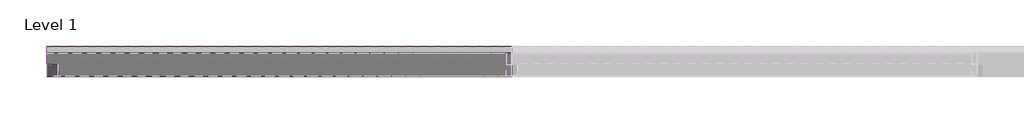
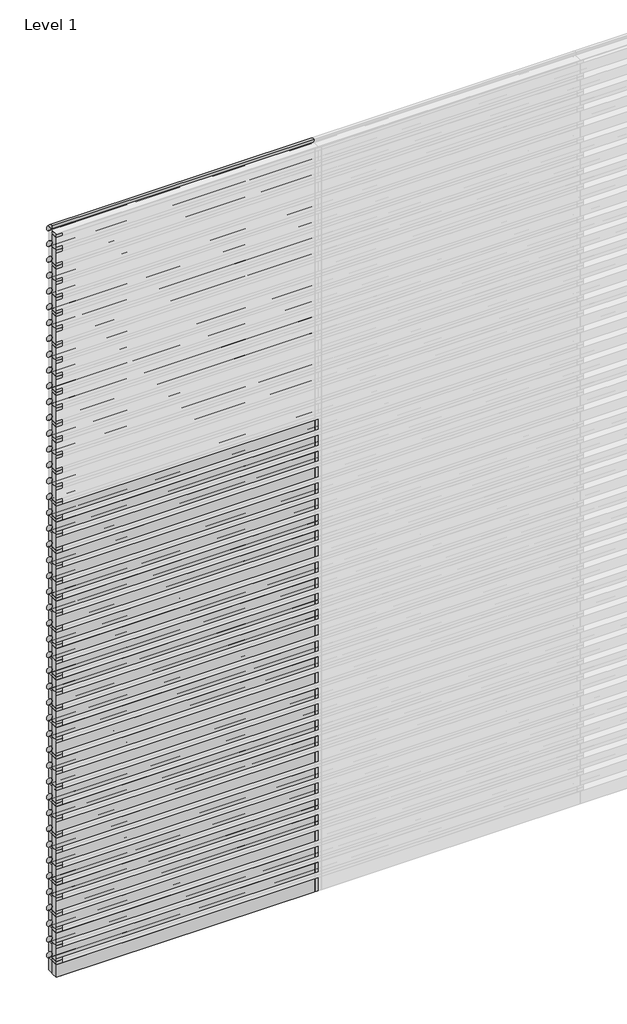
# One storey, part 1 of 5: 94 members, 30 plates.
"""IFC4 building model written with IfcOpenShell, lengths in millimetres."""

from ifc_helpers import new_model, si_unit, origin, place, context, project, spatial, transform, mapped, element, save
from components import rectangular_mullion_d23d7044, rectangular_mullion_b3c6ef04, empty_system_panel_empty_ea596e22, empty_system_panel_empty_a5cbaad0

model = new_model("IFC4")

# Units and contexts
model_context = context("Model", 3, world=origin())
ifc_project = project(units=[si_unit("LENGTHUNIT", "METRE", prefix="MILLI")], contexts=[model_context])

# Site, building, storey
site = spatial("IfcSite", under=ifc_project)
building = spatial("IfcBuilding", under=site)
storey = spatial("IfcBuildingStorey", under=building, Name="Level 1", Elevation=0.0)

# Members
placement = place(None, origin())
rectangular_mullion_shape = rectangular_mullion_d23d7044(model_context)
element("IfcMember", 1, ObjectType="Rectangular Mullion : RSen_21_CWM_blade - 100 D_gen_duco projects", at=placement, inside=storey, context=model_context, shape_type="MappedRepresentation", body=[
    mapped(rectangular_mullion_shape, transform((0.0, 3000.0, 127.5), x_axis=(0.0, 0.0, 1.0), y_axis=(0.0, 1.0, 0.0), z_axis=(-1.0, 0.0, 0.0))),
])
element("IfcMember", 2, ObjectType="Rectangular Mullion : RSen_21_CWM_blade - 100 D_gen_duco projects", at=placement, inside=storey, context=model_context, shape_type="MappedRepresentation", body=[
    mapped(rectangular_mullion_shape, transform((0.0, 3000.0, 255.0), x_axis=(0.0, 0.0, 1.0), y_axis=(0.0, 1.0, 0.0), z_axis=(-1.0, 0.0, 0.0))),
])
element("IfcMember", 3, ObjectType="Rectangular Mullion : RSen_21_CWM_blade - 100 D_gen_duco projects", at=placement, inside=storey, context=model_context, shape_type="MappedRepresentation", body=[
    mapped(rectangular_mullion_shape, transform((0.0, 3000.0, 382.5), x_axis=(0.0, 0.0, 1.0), y_axis=(0.0, 1.0, 0.0), z_axis=(-1.0, 0.0, 0.0))),
])
element("IfcMember", 4, ObjectType="Rectangular Mullion : RSen_21_CWM_blade - 100 D_gen_duco projects", at=placement, inside=storey, context=model_context, shape_type="MappedRepresentation", body=[
    mapped(rectangular_mullion_shape, transform((0.0, 3000.0, 510.0), x_axis=(0.0, 0.0, 1.0), y_axis=(0.0, 1.0, 0.0), z_axis=(-1.0, 0.0, 0.0))),
])
element("IfcMember", 5, ObjectType="Rectangular Mullion : RSen_21_CWM_blade - 100 D_gen_duco projects", at=placement, inside=storey, context=model_context, shape_type="MappedRepresentation", body=[
    mapped(rectangular_mullion_shape, transform((0.0, 3000.0, 637.5), x_axis=(0.0, 0.0, 1.0), y_axis=(0.0, 1.0, 0.0), z_axis=(-1.0, 0.0, 0.0))),
])
element("IfcMember", 6, ObjectType="Rectangular Mullion : RSen_21_CWM_blade - 100 D_gen_duco projects", at=placement, inside=storey, context=model_context, shape_type="MappedRepresentation", body=[
    mapped(rectangular_mullion_shape, transform((0.0, 3000.0, 765.0), x_axis=(0.0, 0.0, 1.0), y_axis=(0.0, 1.0, 0.0), z_axis=(-1.0, 0.0, 0.0))),
])
element("IfcMember", 7, ObjectType="Rectangular Mullion : RSen_21_CWM_blade - 100 D_gen_duco projects", at=placement, inside=storey, context=model_context, shape_type="MappedRepresentation", body=[
    mapped(rectangular_mullion_shape, transform((0.0, 3000.0, 892.5), x_axis=(0.0, 0.0, 1.0), y_axis=(0.0, 1.0, 0.0), z_axis=(-1.0, 0.0, 0.0))),
])
element("IfcMember", 8, ObjectType="Rectangular Mullion : RSen_21_CWM_blade - 100 D_gen_duco projects", at=placement, inside=storey, context=model_context, shape_type="MappedRepresentation", body=[
    mapped(rectangular_mullion_shape, transform((0.0, 3000.0, 1020.0), x_axis=(0.0, 0.0, 1.0), y_axis=(0.0, 1.0, 0.0), z_axis=(-1.0, 0.0, 0.0))),
])
element("IfcMember", 9, ObjectType="Rectangular Mullion : RSen_21_CWM_blade - 100 D_gen_duco projects", at=placement, inside=storey, context=model_context, shape_type="MappedRepresentation", body=[
    mapped(rectangular_mullion_shape, transform((0.0, 3000.0, 1147.5), x_axis=(0.0, 0.0, 1.0), y_axis=(0.0, 1.0, 0.0), z_axis=(-1.0, 0.0, 0.0))),
])
element("IfcMember", 10, ObjectType="Rectangular Mullion : RSen_21_CWM_blade - 100 D_gen_duco projects", at=placement, inside=storey, context=model_context, shape_type="MappedRepresentation", body=[
    mapped(rectangular_mullion_shape, transform((0.0, 3000.0, 1275.0), x_axis=(0.0, 0.0, 1.0), y_axis=(0.0, 1.0, 0.0), z_axis=(-1.0, 0.0, 0.0))),
])
element("IfcMember", 11, ObjectType="Rectangular Mullion : RSen_21_CWM_blade - 100 D_gen_duco projects", at=placement, inside=storey, context=model_context, shape_type="MappedRepresentation", body=[
    mapped(rectangular_mullion_shape, transform((0.0, 3000.0, 1402.5), x_axis=(0.0, 0.0, 1.0), y_axis=(0.0, 1.0, 0.0), z_axis=(-1.0, 0.0, 0.0))),
])
element("IfcMember", 12, ObjectType="Rectangular Mullion : RSen_21_CWM_blade - 100 D_gen_duco projects", at=placement, inside=storey, context=model_context, shape_type="MappedRepresentation", body=[
    mapped(rectangular_mullion_shape, transform((0.0, 3000.0, 1530.0), x_axis=(0.0, 0.0, 1.0), y_axis=(0.0, 1.0, 0.0), z_axis=(-1.0, 0.0, 0.0))),
])
element("IfcMember", 13, ObjectType="Rectangular Mullion : RSen_21_CWM_blade - 100 D_gen_duco projects", at=placement, inside=storey, context=model_context, shape_type="MappedRepresentation", body=[
    mapped(rectangular_mullion_shape, transform((0.0, 3000.0, 1657.5), x_axis=(0.0, 0.0, 1.0), y_axis=(0.0, 1.0, 0.0), z_axis=(-1.0, 0.0, 0.0))),
])
element("IfcMember", 14, ObjectType="Rectangular Mullion : RSen_21_CWM_blade - 100 D_gen_duco projects", at=placement, inside=storey, context=model_context, shape_type="MappedRepresentation", body=[
    mapped(rectangular_mullion_shape, transform((0.0, 3000.0, 1785.0), x_axis=(0.0, 0.0, 1.0), y_axis=(0.0, 1.0, 0.0), z_axis=(-1.0, 0.0, 0.0))),
])
element("IfcMember", 15, ObjectType="Rectangular Mullion : RSen_21_CWM_blade - 100 D_gen_duco projects", at=placement, inside=storey, context=model_context, shape_type="MappedRepresentation", body=[
    mapped(rectangular_mullion_shape, transform((0.0, 3000.0, 1912.5), x_axis=(0.0, 0.0, 1.0), y_axis=(0.0, 1.0, 0.0), z_axis=(-1.0, 0.0, 0.0))),
])
element("IfcMember", 16, ObjectType="Rectangular Mullion : RSen_21_CWM_blade - 100 D_gen_duco projects", at=placement, inside=storey, context=model_context, shape_type="MappedRepresentation", body=[
    mapped(rectangular_mullion_shape, transform((0.0, 3000.0, 2040.0), x_axis=(0.0, 0.0, 1.0), y_axis=(0.0, 1.0, 0.0), z_axis=(-1.0, 0.0, 0.0))),
])
element("IfcMember", 17, ObjectType="Rectangular Mullion : RSen_21_CWM_blade - 100 D_gen_duco projects", at=placement, inside=storey, context=model_context, shape_type="MappedRepresentation", body=[
    mapped(rectangular_mullion_shape, transform((0.0, 3000.0, 2167.5), x_axis=(0.0, 0.0, 1.0), y_axis=(0.0, 1.0, 0.0), z_axis=(-1.0, 0.0, 0.0))),
])
element("IfcMember", 18, ObjectType="Rectangular Mullion : RSen_21_CWM_blade - 100 D_gen_duco projects", at=placement, inside=storey, context=model_context, shape_type="MappedRepresentation", body=[
    mapped(rectangular_mullion_shape, transform((0.0, 3000.0, 2295.0), x_axis=(0.0, 0.0, 1.0), y_axis=(0.0, 1.0, 0.0), z_axis=(-1.0, 0.0, 0.0))),
])
element("IfcMember", 19, ObjectType="Rectangular Mullion : RSen_21_CWM_blade - 100 D_gen_duco projects", at=placement, inside=storey, context=model_context, shape_type="MappedRepresentation", body=[
    mapped(rectangular_mullion_shape, transform((0.0, 3000.0, 2422.5), x_axis=(0.0, 0.0, 1.0), y_axis=(0.0, 1.0, 0.0), z_axis=(-1.0, 0.0, 0.0))),
])
element("IfcMember", 20, ObjectType="Rectangular Mullion : RSen_21_CWM_blade - 100 D_gen_duco projects", at=placement, inside=storey, context=model_context, shape_type="MappedRepresentation", body=[
    mapped(rectangular_mullion_shape, transform((0.0, 3000.0, 2550.0), x_axis=(0.0, 0.0, 1.0), y_axis=(0.0, 1.0, 0.0), z_axis=(-1.0, 0.0, 0.0))),
])
element("IfcMember", 21, ObjectType="Rectangular Mullion : RSen_21_CWM_blade - 100 D_gen_duco projects", at=placement, inside=storey, context=model_context, shape_type="MappedRepresentation", body=[
    mapped(rectangular_mullion_shape, transform((0.0, 3000.0, 2677.5), x_axis=(0.0, 0.0, 1.0), y_axis=(0.0, 1.0, 0.0), z_axis=(-1.0, 0.0, 0.0))),
])
element("IfcMember", 22, ObjectType="Rectangular Mullion : RSen_21_CWM_blade - 100 D_gen_duco projects", at=placement, inside=storey, context=model_context, shape_type="MappedRepresentation", body=[
    mapped(rectangular_mullion_shape, transform((0.0, 3000.0, 2805.0), x_axis=(0.0, 0.0, 1.0), y_axis=(0.0, 1.0, 0.0), z_axis=(-1.0, 0.0, 0.0))),
])
element("IfcMember", 23, ObjectType="Rectangular Mullion : RSen_21_CWM_blade - 100 D_gen_duco projects", at=placement, inside=storey, context=model_context, shape_type="MappedRepresentation", body=[
    mapped(rectangular_mullion_shape, transform((0.0, 3000.0, 2932.5), x_axis=(0.0, 0.0, 1.0), y_axis=(0.0, 1.0, 0.0), z_axis=(-1.0, 0.0, 0.0))),
])
element("IfcMember", 24, ObjectType="Rectangular Mullion : RSen_21_CWM_blade - 100 D_gen_duco projects", at=placement, inside=storey, context=model_context, shape_type="MappedRepresentation", body=[
    mapped(rectangular_mullion_shape, transform((0.0, 3000.0, 3060.0), x_axis=(0.0, 0.0, 1.0), y_axis=(0.0, 1.0, 0.0), z_axis=(-1.0, 0.0, 0.0))),
])
element("IfcMember", 25, ObjectType="Rectangular Mullion : RSen_21_CWM_blade - 100 D_gen_duco projects", at=placement, inside=storey, context=model_context, shape_type="MappedRepresentation", body=[
    mapped(rectangular_mullion_shape, transform((0.0, 3000.0, 3187.5), x_axis=(0.0, 0.0, 1.0), y_axis=(0.0, 1.0, 0.0), z_axis=(-1.0, 0.0, 0.0))),
])
element("IfcMember", 26, ObjectType="Rectangular Mullion : RSen_21_CWM_blade - 100 D_gen_duco projects", at=placement, inside=storey, context=model_context, shape_type="MappedRepresentation", body=[
    mapped(rectangular_mullion_shape, transform((0.0, 3000.0, 3315.0), x_axis=(0.0, 0.0, 1.0), y_axis=(0.0, 1.0, 0.0), z_axis=(-1.0, 0.0, 0.0))),
])
element("IfcMember", 27, ObjectType="Rectangular Mullion : RSen_21_CWM_blade - 100 D_gen_duco projects", at=placement, inside=storey, context=model_context, shape_type="MappedRepresentation", body=[
    mapped(rectangular_mullion_shape, transform((0.0, 3000.0, 3442.5), x_axis=(0.0, 0.0, 1.0), y_axis=(0.0, 1.0, 0.0), z_axis=(-1.0, 0.0, 0.0))),
])
element("IfcMember", 28, ObjectType="Rectangular Mullion : RSen_21_CWM_blade - 100 D_gen_duco projects", at=placement, inside=storey, context=model_context, shape_type="MappedRepresentation", body=[
    mapped(rectangular_mullion_shape, transform((0.0, 3000.0, 3570.0), x_axis=(0.0, 0.0, 1.0), y_axis=(0.0, 1.0, 0.0), z_axis=(-1.0, 0.0, 0.0))),
])
element("IfcMember", 29, ObjectType="Rectangular Mullion : RSen_21_CWM_blade - 100 D_gen_duco projects", at=placement, inside=storey, context=model_context, shape_type="MappedRepresentation", body=[
    mapped(rectangular_mullion_shape, transform((0.0, 3000.0, 3697.5), x_axis=(0.0, 0.0, 1.0), y_axis=(0.0, 1.0, 0.0), z_axis=(-1.0, 0.0, 0.0))),
])
element("IfcMember", 30, ObjectType="Rectangular Mullion : RSen_21_CWM_blade - 100 D_gen_duco projects", at=placement, inside=storey, context=model_context, shape_type="MappedRepresentation", body=[
    mapped(rectangular_mullion_shape, transform((0.0, 3000.0, 3825.0), x_axis=(0.0, 0.0, 1.0), y_axis=(0.0, 1.0, 0.0), z_axis=(-1.0, 0.0, 0.0))),
])
element("IfcMember", 31, ObjectType="Rectangular Mullion : RSen_21_CWM_blade - 100 D_gen_duco projects", at=placement, inside=storey, context=model_context, shape_type="MappedRepresentation", body=[
    mapped(rectangular_mullion_shape, transform((0.0, 3000.0, 3952.5), x_axis=(0.0, 0.0, 1.0), y_axis=(0.0, 1.0, 0.0), z_axis=(-1.0, 0.0, 0.0))),
])
element("IfcMember", 32, ObjectType="Rectangular Mullion : RSen_21_CWM_blade - 100 D_gen_duco projects", at=placement, inside=storey, context=model_context, shape_type="MappedRepresentation", body=[
    mapped(rectangular_mullion_shape, transform((0.0, 3000.0, 4080.0), x_axis=(0.0, 0.0, 1.0), y_axis=(0.0, 1.0, 0.0), z_axis=(-1.0, 0.0, 0.0))),
])
element("IfcMember", 33, ObjectType="Rectangular Mullion : RSen_21_CWM_blade - 100 D_gen_duco projects", at=placement, inside=storey, context=model_context, shape_type="MappedRepresentation", body=[
    mapped(rectangular_mullion_shape, transform((0.0, 3000.0, 4207.5), x_axis=(0.0, 0.0, 1.0), y_axis=(0.0, 1.0, 0.0), z_axis=(-1.0, 0.0, 0.0))),
])
element("IfcMember", 34, ObjectType="Rectangular Mullion : RSen_21_CWM_blade - 100 D_gen_duco projects", at=placement, inside=storey, context=model_context, shape_type="MappedRepresentation", body=[
    mapped(rectangular_mullion_shape, transform((0.0, 3000.0, 4335.0), x_axis=(0.0, 0.0, 1.0), y_axis=(0.0, 1.0, 0.0), z_axis=(-1.0, 0.0, 0.0))),
])
element("IfcMember", 35, ObjectType="Rectangular Mullion : RSen_21_CWM_blade - 100 D_gen_duco projects", at=placement, inside=storey, context=model_context, shape_type="MappedRepresentation", body=[
    mapped(rectangular_mullion_shape, transform((0.0, 3000.0, 4462.5), x_axis=(0.0, 0.0, 1.0), y_axis=(0.0, 1.0, 0.0), z_axis=(-1.0, 0.0, 0.0))),
])
element("IfcMember", 36, ObjectType="Rectangular Mullion : RSen_21_CWM_blade - 100 D_gen_duco projects", at=placement, inside=storey, context=model_context, shape_type="MappedRepresentation", body=[
    mapped(rectangular_mullion_shape, transform((0.0, 3000.0, 4590.0), x_axis=(0.0, 0.0, 1.0), y_axis=(0.0, 1.0, 0.0), z_axis=(-1.0, 0.0, 0.0))),
])
element("IfcMember", 37, ObjectType="Rectangular Mullion : RSen_21_CWM_blade - 100 D_gen_duco projects", at=placement, inside=storey, context=model_context, shape_type="MappedRepresentation", body=[
    mapped(rectangular_mullion_shape, transform((0.0, 3000.0, 4717.5), x_axis=(0.0, 0.0, 1.0), y_axis=(0.0, 1.0, 0.0), z_axis=(-1.0, 0.0, 0.0))),
])
element("IfcMember", 38, ObjectType="Rectangular Mullion : RSen_21_CWM_blade - 100 D_gen_duco projects", at=placement, inside=storey, context=model_context, shape_type="MappedRepresentation", body=[
    mapped(rectangular_mullion_shape, transform((0.0, 3000.0, 4845.0), x_axis=(0.0, 0.0, 1.0), y_axis=(0.0, 1.0, 0.0), z_axis=(-1.0, 0.0, 0.0))),
])
element("IfcMember", 39, ObjectType="Rectangular Mullion : RSen_21_CWM_blade - 100 D_gen_duco projects", at=placement, inside=storey, context=model_context, shape_type="MappedRepresentation", body=[
    mapped(rectangular_mullion_shape, transform((0.0, 3000.0, 4972.5), x_axis=(0.0, 0.0, 1.0), y_axis=(0.0, 1.0, 0.0), z_axis=(-1.0, 0.0, 0.0))),
])
element("IfcMember", 40, ObjectType="Rectangular Mullion : RSen_21_CWM_blade - 100 D_gen_duco projects", at=placement, inside=storey, context=model_context, shape_type="MappedRepresentation", body=[
    mapped(rectangular_mullion_shape, transform((0.0, 3000.0, 5100.0), x_axis=(0.0, 0.0, 1.0), y_axis=(0.0, 1.0, 0.0), z_axis=(-1.0, 0.0, 0.0))),
])
element("IfcMember", 41, ObjectType="Rectangular Mullion : RSen_21_CWM_blade - 100 D_gen_duco projects", at=placement, inside=storey, context=model_context, shape_type="MappedRepresentation", body=[
    mapped(rectangular_mullion_shape, transform((0.0, 3000.0, 5227.5), x_axis=(0.0, 0.0, 1.0), y_axis=(0.0, 1.0, 0.0), z_axis=(-1.0, 0.0, 0.0))),
])
element("IfcMember", 42, ObjectType="Rectangular Mullion : RSen_21_CWM_blade - 100 D_gen_duco projects", at=placement, inside=storey, context=model_context, shape_type="MappedRepresentation", body=[
    mapped(rectangular_mullion_shape, transform((0.0, 3000.0, 5355.0), x_axis=(0.0, 0.0, 1.0), y_axis=(0.0, 1.0, 0.0), z_axis=(-1.0, 0.0, 0.0))),
])
element("IfcMember", 43, ObjectType="Rectangular Mullion : RSen_21_CWM_blade - 100 D_gen_duco projects", at=placement, inside=storey, context=model_context, shape_type="MappedRepresentation", body=[
    mapped(rectangular_mullion_shape, transform((0.0, 3000.0, 5482.5), x_axis=(0.0, 0.0, 1.0), y_axis=(0.0, 1.0, 0.0), z_axis=(-1.0, 0.0, 0.0))),
])
element("IfcMember", 44, ObjectType="Rectangular Mullion : RSen_21_CWM_blade - 100 D_gen_duco projects", at=placement, inside=storey, context=model_context, shape_type="MappedRepresentation", body=[
    mapped(rectangular_mullion_shape, transform((0.0, 3000.0, 5610.0), x_axis=(0.0, 0.0, 1.0), y_axis=(0.0, 1.0, 0.0), z_axis=(-1.0, 0.0, 0.0))),
])
element("IfcMember", 45, ObjectType="Rectangular Mullion : RSen_21_CWM_blade - 100 D_gen_duco projects", at=placement, inside=storey, context=model_context, shape_type="MappedRepresentation", body=[
    mapped(rectangular_mullion_shape, transform((0.0, 3000.0, 5737.5), x_axis=(0.0, 0.0, 1.0), y_axis=(0.0, 1.0, 0.0), z_axis=(-1.0, 0.0, 0.0))),
])
element("IfcMember", 46, ObjectType="Rectangular Mullion : RSen_21_CWM_blade - 100 D_gen_duco projects", at=placement, inside=storey, context=model_context, shape_type="MappedRepresentation", body=[
    mapped(rectangular_mullion_shape, transform((0.0, 3000.0, 5865.0), x_axis=(0.0, 0.0, 1.0), y_axis=(0.0, 1.0, 0.0), z_axis=(-1.0, 0.0, 0.0))),
])
element("IfcMember", 47, ObjectType="Rectangular Mullion : RSen_21_CWM_blade - 100 D_gen_duco projects", at=placement, inside=storey, context=model_context, shape_type="MappedRepresentation", body=[
    mapped(rectangular_mullion_shape, transform((0.0, 3000.0, 5992.5), x_axis=(0.0, 0.0, 1.0), y_axis=(0.0, 1.0, 0.0), z_axis=(-1.0, 0.0, 0.0))),
])
rectangular_mullion_2_shape = rectangular_mullion_b3c6ef04(model_context)
element("IfcMember", 48, ObjectType="Rectangular Mullion : RSen_21_CWM_support profile 50x50 - left_gen_duco projects", at=placement, inside=storey, context=model_context, shape_type="MappedRepresentation", body=[
    mapped(rectangular_mullion_2_shape, transform((0.0, 3000.0, 0.0), x_axis=(-1.0, 0.0, 0.0), y_axis=(0.0, 1.0, 0.0), z_axis=(0.0, 0.0, -1.0))),
])
element("IfcMember", 49, ObjectType="Rectangular Mullion : RSen_21_CWM_support profile 50x50 - left_gen_duco projects", at=placement, inside=storey, context=model_context, shape_type="MappedRepresentation", body=[
    mapped(rectangular_mullion_2_shape, transform((0.0, 3000.0, 127.5), x_axis=(-1.0, 0.0, 0.0), y_axis=(0.0, 1.0, 0.0), z_axis=(0.0, 0.0, -1.0))),
])
element("IfcMember", 50, ObjectType="Rectangular Mullion : RSen_21_CWM_support profile 50x50 - left_gen_duco projects", at=placement, inside=storey, context=model_context, shape_type="MappedRepresentation", body=[
    mapped(rectangular_mullion_2_shape, transform((0.0, 3000.0, 255.0), x_axis=(-1.0, 0.0, 0.0), y_axis=(0.0, 1.0, 0.0), z_axis=(0.0, 0.0, -1.0))),
])
element("IfcMember", 51, ObjectType="Rectangular Mullion : RSen_21_CWM_support profile 50x50 - left_gen_duco projects", at=placement, inside=storey, context=model_context, shape_type="MappedRepresentation", body=[
    mapped(rectangular_mullion_2_shape, transform((0.0, 3000.0, 382.5), x_axis=(-1.0, 0.0, 0.0), y_axis=(0.0, 1.0, 0.0), z_axis=(0.0, 0.0, -1.0))),
])
element("IfcMember", 52, ObjectType="Rectangular Mullion : RSen_21_CWM_support profile 50x50 - left_gen_duco projects", at=placement, inside=storey, context=model_context, shape_type="MappedRepresentation", body=[
    mapped(rectangular_mullion_2_shape, transform((0.0, 3000.0, 510.0), x_axis=(-1.0, 0.0, 0.0), y_axis=(0.0, 1.0, 0.0), z_axis=(0.0, 0.0, -1.0))),
])
element("IfcMember", 53, ObjectType="Rectangular Mullion : RSen_21_CWM_support profile 50x50 - left_gen_duco projects", at=placement, inside=storey, context=model_context, shape_type="MappedRepresentation", body=[
    mapped(rectangular_mullion_2_shape, transform((0.0, 3000.0, 637.5), x_axis=(-1.0, 0.0, 0.0), y_axis=(0.0, 1.0, 0.0), z_axis=(0.0, 0.0, -1.0))),
])
element("IfcMember", 54, ObjectType="Rectangular Mullion : RSen_21_CWM_support profile 50x50 - left_gen_duco projects", at=placement, inside=storey, context=model_context, shape_type="MappedRepresentation", body=[
    mapped(rectangular_mullion_2_shape, transform((0.0, 3000.0, 765.0), x_axis=(-1.0, 0.0, 0.0), y_axis=(0.0, 1.0, 0.0), z_axis=(0.0, 0.0, -1.0))),
])
element("IfcMember", 55, ObjectType="Rectangular Mullion : RSen_21_CWM_support profile 50x50 - left_gen_duco projects", at=placement, inside=storey, context=model_context, shape_type="MappedRepresentation", body=[
    mapped(rectangular_mullion_2_shape, transform((0.0, 3000.0, 892.5), x_axis=(-1.0, 0.0, 0.0), y_axis=(0.0, 1.0, 0.0), z_axis=(0.0, 0.0, -1.0))),
])
element("IfcMember", 56, ObjectType="Rectangular Mullion : RSen_21_CWM_support profile 50x50 - left_gen_duco projects", at=placement, inside=storey, context=model_context, shape_type="MappedRepresentation", body=[
    mapped(rectangular_mullion_2_shape, transform((0.0, 3000.0, 1020.0), x_axis=(-1.0, 0.0, 0.0), y_axis=(0.0, 1.0, 0.0), z_axis=(0.0, 0.0, -1.0))),
])
element("IfcMember", 57, ObjectType="Rectangular Mullion : RSen_21_CWM_support profile 50x50 - left_gen_duco projects", at=placement, inside=storey, context=model_context, shape_type="MappedRepresentation", body=[
    mapped(rectangular_mullion_2_shape, transform((0.0, 3000.0, 1147.5), x_axis=(-1.0, 0.0, 0.0), y_axis=(0.0, 1.0, 0.0), z_axis=(0.0, 0.0, -1.0))),
])
element("IfcMember", 58, ObjectType="Rectangular Mullion : RSen_21_CWM_support profile 50x50 - left_gen_duco projects", at=placement, inside=storey, context=model_context, shape_type="MappedRepresentation", body=[
    mapped(rectangular_mullion_2_shape, transform((0.0, 3000.0, 1275.0), x_axis=(-1.0, 0.0, 0.0), y_axis=(0.0, 1.0, 0.0), z_axis=(0.0, 0.0, -1.0))),
])
element("IfcMember", 59, ObjectType="Rectangular Mullion : RSen_21_CWM_support profile 50x50 - left_gen_duco projects", at=placement, inside=storey, context=model_context, shape_type="MappedRepresentation", body=[
    mapped(rectangular_mullion_2_shape, transform((0.0, 3000.0, 1402.5), x_axis=(-1.0, 0.0, 0.0), y_axis=(0.0, 1.0, 0.0), z_axis=(0.0, 0.0, -1.0))),
])
element("IfcMember", 60, ObjectType="Rectangular Mullion : RSen_21_CWM_support profile 50x50 - left_gen_duco projects", at=placement, inside=storey, context=model_context, shape_type="MappedRepresentation", body=[
    mapped(rectangular_mullion_2_shape, transform((0.0, 3000.0, 1530.0), x_axis=(-1.0, 0.0, 0.0), y_axis=(0.0, 1.0, 0.0), z_axis=(0.0, 0.0, -1.0))),
])
element("IfcMember", 61, ObjectType="Rectangular Mullion : RSen_21_CWM_support profile 50x50 - left_gen_duco projects", at=placement, inside=storey, context=model_context, shape_type="MappedRepresentation", body=[
    mapped(rectangular_mullion_2_shape, transform((0.0, 3000.0, 1657.5), x_axis=(-1.0, 0.0, 0.0), y_axis=(0.0, 1.0, 0.0), z_axis=(0.0, 0.0, -1.0))),
])
element("IfcMember", 62, ObjectType="Rectangular Mullion : RSen_21_CWM_support profile 50x50 - left_gen_duco projects", at=placement, inside=storey, context=model_context, shape_type="MappedRepresentation", body=[
    mapped(rectangular_mullion_2_shape, transform((0.0, 3000.0, 1785.0), x_axis=(-1.0, 0.0, 0.0), y_axis=(0.0, 1.0, 0.0), z_axis=(0.0, 0.0, -1.0))),
])
element("IfcMember", 63, ObjectType="Rectangular Mullion : RSen_21_CWM_support profile 50x50 - left_gen_duco projects", at=placement, inside=storey, context=model_context, shape_type="MappedRepresentation", body=[
    mapped(rectangular_mullion_2_shape, transform((0.0, 3000.0, 1912.5), x_axis=(-1.0, 0.0, 0.0), y_axis=(0.0, 1.0, 0.0), z_axis=(0.0, 0.0, -1.0))),
])
element("IfcMember", 64, ObjectType="Rectangular Mullion : RSen_21_CWM_support profile 50x50 - left_gen_duco projects", at=placement, inside=storey, context=model_context, shape_type="MappedRepresentation", body=[
    mapped(rectangular_mullion_2_shape, transform((0.0, 3000.0, 2040.0), x_axis=(-1.0, 0.0, 0.0), y_axis=(0.0, 1.0, 0.0), z_axis=(0.0, 0.0, -1.0))),
])
element("IfcMember", 65, ObjectType="Rectangular Mullion : RSen_21_CWM_support profile 50x50 - left_gen_duco projects", at=placement, inside=storey, context=model_context, shape_type="MappedRepresentation", body=[
    mapped(rectangular_mullion_2_shape, transform((0.0, 3000.0, 2167.5), x_axis=(-1.0, 0.0, 0.0), y_axis=(0.0, 1.0, 0.0), z_axis=(0.0, 0.0, -1.0))),
])
element("IfcMember", 66, ObjectType="Rectangular Mullion : RSen_21_CWM_support profile 50x50 - left_gen_duco projects", at=placement, inside=storey, context=model_context, shape_type="MappedRepresentation", body=[
    mapped(rectangular_mullion_2_shape, transform((0.0, 3000.0, 2295.0), x_axis=(-1.0, 0.0, 0.0), y_axis=(0.0, 1.0, 0.0), z_axis=(0.0, 0.0, -1.0))),
])
element("IfcMember", 67, ObjectType="Rectangular Mullion : RSen_21_CWM_support profile 50x50 - left_gen_duco projects", at=placement, inside=storey, context=model_context, shape_type="MappedRepresentation", body=[
    mapped(rectangular_mullion_2_shape, transform((0.0, 3000.0, 2422.5), x_axis=(-1.0, 0.0, 0.0), y_axis=(0.0, 1.0, 0.0), z_axis=(0.0, 0.0, -1.0))),
])
element("IfcMember", 68, ObjectType="Rectangular Mullion : RSen_21_CWM_support profile 50x50 - left_gen_duco projects", at=placement, inside=storey, context=model_context, shape_type="MappedRepresentation", body=[
    mapped(rectangular_mullion_2_shape, transform((0.0, 3000.0, 2550.0), x_axis=(-1.0, 0.0, 0.0), y_axis=(0.0, 1.0, 0.0), z_axis=(0.0, 0.0, -1.0))),
])
element("IfcMember", 69, ObjectType="Rectangular Mullion : RSen_21_CWM_support profile 50x50 - left_gen_duco projects", at=placement, inside=storey, context=model_context, shape_type="MappedRepresentation", body=[
    mapped(rectangular_mullion_2_shape, transform((0.0, 3000.0, 2677.5), x_axis=(-1.0, 0.0, 0.0), y_axis=(0.0, 1.0, 0.0), z_axis=(0.0, 0.0, -1.0))),
])
element("IfcMember", 70, ObjectType="Rectangular Mullion : RSen_21_CWM_support profile 50x50 - left_gen_duco projects", at=placement, inside=storey, context=model_context, shape_type="MappedRepresentation", body=[
    mapped(rectangular_mullion_2_shape, transform((0.0, 3000.0, 2805.0), x_axis=(-1.0, 0.0, 0.0), y_axis=(0.0, 1.0, 0.0), z_axis=(0.0, 0.0, -1.0))),
])
element("IfcMember", 71, ObjectType="Rectangular Mullion : RSen_21_CWM_support profile 50x50 - left_gen_duco projects", at=placement, inside=storey, context=model_context, shape_type="MappedRepresentation", body=[
    mapped(rectangular_mullion_2_shape, transform((0.0, 3000.0, 2932.5), x_axis=(-1.0, 0.0, 0.0), y_axis=(0.0, 1.0, 0.0), z_axis=(0.0, 0.0, -1.0))),
])
element("IfcMember", 72, ObjectType="Rectangular Mullion : RSen_21_CWM_support profile 50x50 - left_gen_duco projects", at=placement, inside=storey, context=model_context, shape_type="MappedRepresentation", body=[
    mapped(rectangular_mullion_2_shape, transform((0.0, 3000.0, 3060.0), x_axis=(-1.0, 0.0, 0.0), y_axis=(0.0, 1.0, 0.0), z_axis=(0.0, 0.0, -1.0))),
])
element("IfcMember", 73, ObjectType="Rectangular Mullion : RSen_21_CWM_support profile 50x50 - left_gen_duco projects", at=placement, inside=storey, context=model_context, shape_type="MappedRepresentation", body=[
    mapped(rectangular_mullion_2_shape, transform((0.0, 3000.0, 3187.5), x_axis=(-1.0, 0.0, 0.0), y_axis=(0.0, 1.0, 0.0), z_axis=(0.0, 0.0, -1.0))),
])
element("IfcMember", 74, ObjectType="Rectangular Mullion : RSen_21_CWM_support profile 50x50 - left_gen_duco projects", at=placement, inside=storey, context=model_context, shape_type="MappedRepresentation", body=[
    mapped(rectangular_mullion_2_shape, transform((0.0, 3000.0, 3315.0), x_axis=(-1.0, 0.0, 0.0), y_axis=(0.0, 1.0, 0.0), z_axis=(0.0, 0.0, -1.0))),
])
element("IfcMember", 75, ObjectType="Rectangular Mullion : RSen_21_CWM_support profile 50x50 - left_gen_duco projects", at=placement, inside=storey, context=model_context, shape_type="MappedRepresentation", body=[
    mapped(rectangular_mullion_2_shape, transform((0.0, 3000.0, 3442.5), x_axis=(-1.0, 0.0, 0.0), y_axis=(0.0, 1.0, 0.0), z_axis=(0.0, 0.0, -1.0))),
])
element("IfcMember", 76, ObjectType="Rectangular Mullion : RSen_21_CWM_support profile 50x50 - left_gen_duco projects", at=placement, inside=storey, context=model_context, shape_type="MappedRepresentation", body=[
    mapped(rectangular_mullion_2_shape, transform((0.0, 3000.0, 3570.0), x_axis=(-1.0, 0.0, 0.0), y_axis=(0.0, 1.0, 0.0), z_axis=(0.0, 0.0, -1.0))),
])
element("IfcMember", 77, ObjectType="Rectangular Mullion : RSen_21_CWM_support profile 50x50 - left_gen_duco projects", at=placement, inside=storey, context=model_context, shape_type="MappedRepresentation", body=[
    mapped(rectangular_mullion_2_shape, transform((0.0, 3000.0, 3697.5), x_axis=(-1.0, 0.0, 0.0), y_axis=(0.0, 1.0, 0.0), z_axis=(0.0, 0.0, -1.0))),
])
element("IfcMember", 78, ObjectType="Rectangular Mullion : RSen_21_CWM_support profile 50x50 - left_gen_duco projects", at=placement, inside=storey, context=model_context, shape_type="MappedRepresentation", body=[
    mapped(rectangular_mullion_2_shape, transform((0.0, 3000.0, 3825.0), x_axis=(-1.0, 0.0, 0.0), y_axis=(0.0, 1.0, 0.0), z_axis=(0.0, 0.0, -1.0))),
])
element("IfcMember", 79, ObjectType="Rectangular Mullion : RSen_21_CWM_support profile 50x50 - left_gen_duco projects", at=placement, inside=storey, context=model_context, shape_type="MappedRepresentation", body=[
    mapped(rectangular_mullion_2_shape, transform((0.0, 3000.0, 3952.5), x_axis=(-1.0, 0.0, 0.0), y_axis=(0.0, 1.0, 0.0), z_axis=(0.0, 0.0, -1.0))),
])
element("IfcMember", 80, ObjectType="Rectangular Mullion : RSen_21_CWM_support profile 50x50 - left_gen_duco projects", at=placement, inside=storey, context=model_context, shape_type="MappedRepresentation", body=[
    mapped(rectangular_mullion_2_shape, transform((0.0, 3000.0, 4080.0), x_axis=(-1.0, 0.0, 0.0), y_axis=(0.0, 1.0, 0.0), z_axis=(0.0, 0.0, -1.0))),
])
element("IfcMember", 81, ObjectType="Rectangular Mullion : RSen_21_CWM_support profile 50x50 - left_gen_duco projects", at=placement, inside=storey, context=model_context, shape_type="MappedRepresentation", body=[
    mapped(rectangular_mullion_2_shape, transform((0.0, 3000.0, 4207.5), x_axis=(-1.0, 0.0, 0.0), y_axis=(0.0, 1.0, 0.0), z_axis=(0.0, 0.0, -1.0))),
])
element("IfcMember", 82, ObjectType="Rectangular Mullion : RSen_21_CWM_support profile 50x50 - left_gen_duco projects", at=placement, inside=storey, context=model_context, shape_type="MappedRepresentation", body=[
    mapped(rectangular_mullion_2_shape, transform((0.0, 3000.0, 4335.0), x_axis=(-1.0, 0.0, 0.0), y_axis=(0.0, 1.0, 0.0), z_axis=(0.0, 0.0, -1.0))),
])
element("IfcMember", 83, ObjectType="Rectangular Mullion : RSen_21_CWM_support profile 50x50 - left_gen_duco projects", at=placement, inside=storey, context=model_context, shape_type="MappedRepresentation", body=[
    mapped(rectangular_mullion_2_shape, transform((0.0, 3000.0, 4462.5), x_axis=(-1.0, 0.0, 0.0), y_axis=(0.0, 1.0, 0.0), z_axis=(0.0, 0.0, -1.0))),
])
element("IfcMember", 84, ObjectType="Rectangular Mullion : RSen_21_CWM_support profile 50x50 - left_gen_duco projects", at=placement, inside=storey, context=model_context, shape_type="MappedRepresentation", body=[
    mapped(rectangular_mullion_2_shape, transform((0.0, 3000.0, 4590.0), x_axis=(-1.0, 0.0, 0.0), y_axis=(0.0, 1.0, 0.0), z_axis=(0.0, 0.0, -1.0))),
])
element("IfcMember", 85, ObjectType="Rectangular Mullion : RSen_21_CWM_support profile 50x50 - left_gen_duco projects", at=placement, inside=storey, context=model_context, shape_type="MappedRepresentation", body=[
    mapped(rectangular_mullion_2_shape, transform((0.0, 3000.0, 4717.5), x_axis=(-1.0, 0.0, 0.0), y_axis=(0.0, 1.0, 0.0), z_axis=(0.0, 0.0, -1.0))),
])
element("IfcMember", 86, ObjectType="Rectangular Mullion : RSen_21_CWM_support profile 50x50 - left_gen_duco projects", at=placement, inside=storey, context=model_context, shape_type="MappedRepresentation", body=[
    mapped(rectangular_mullion_2_shape, transform((0.0, 3000.0, 4845.0), x_axis=(-1.0, 0.0, 0.0), y_axis=(0.0, 1.0, 0.0), z_axis=(0.0, 0.0, -1.0))),
])
element("IfcMember", 87, ObjectType="Rectangular Mullion : RSen_21_CWM_support profile 50x50 - left_gen_duco projects", at=placement, inside=storey, context=model_context, shape_type="MappedRepresentation", body=[
    mapped(rectangular_mullion_2_shape, transform((0.0, 3000.0, 4972.5), x_axis=(-1.0, 0.0, 0.0), y_axis=(0.0, 1.0, 0.0), z_axis=(0.0, 0.0, -1.0))),
])
element("IfcMember", 88, ObjectType="Rectangular Mullion : RSen_21_CWM_support profile 50x50 - left_gen_duco projects", at=placement, inside=storey, context=model_context, shape_type="MappedRepresentation", body=[
    mapped(rectangular_mullion_2_shape, transform((0.0, 3000.0, 5100.0), x_axis=(-1.0, 0.0, 0.0), y_axis=(0.0, 1.0, 0.0), z_axis=(0.0, 0.0, -1.0))),
])
element("IfcMember", 89, ObjectType="Rectangular Mullion : RSen_21_CWM_support profile 50x50 - left_gen_duco projects", at=placement, inside=storey, context=model_context, shape_type="MappedRepresentation", body=[
    mapped(rectangular_mullion_2_shape, transform((0.0, 3000.0, 5227.5), x_axis=(-1.0, 0.0, 0.0), y_axis=(0.0, 1.0, 0.0), z_axis=(0.0, 0.0, -1.0))),
])
element("IfcMember", 90, ObjectType="Rectangular Mullion : RSen_21_CWM_support profile 50x50 - left_gen_duco projects", at=placement, inside=storey, context=model_context, shape_type="MappedRepresentation", body=[
    mapped(rectangular_mullion_2_shape, transform((0.0, 3000.0, 5355.0), x_axis=(-1.0, 0.0, 0.0), y_axis=(0.0, 1.0, 0.0), z_axis=(0.0, 0.0, -1.0))),
])
element("IfcMember", 91, ObjectType="Rectangular Mullion : RSen_21_CWM_support profile 50x50 - left_gen_duco projects", at=placement, inside=storey, context=model_context, shape_type="MappedRepresentation", body=[
    mapped(rectangular_mullion_2_shape, transform((0.0, 3000.0, 5482.5), x_axis=(-1.0, 0.0, 0.0), y_axis=(0.0, 1.0, 0.0), z_axis=(0.0, 0.0, -1.0))),
])
element("IfcMember", 92, ObjectType="Rectangular Mullion : RSen_21_CWM_support profile 50x50 - left_gen_duco projects", at=placement, inside=storey, context=model_context, shape_type="MappedRepresentation", body=[
    mapped(rectangular_mullion_2_shape, transform((0.0, 3000.0, 5610.0), x_axis=(-1.0, 0.0, 0.0), y_axis=(0.0, 1.0, 0.0), z_axis=(0.0, 0.0, -1.0))),
])
element("IfcMember", 93, ObjectType="Rectangular Mullion : RSen_21_CWM_support profile 50x50 - left_gen_duco projects", at=placement, inside=storey, context=model_context, shape_type="MappedRepresentation", body=[
    mapped(rectangular_mullion_2_shape, transform((0.0, 3000.0, 5737.5), x_axis=(-1.0, 0.0, 0.0), y_axis=(0.0, 1.0, 0.0), z_axis=(0.0, 0.0, -1.0))),
])
element("IfcMember", 94, ObjectType="Rectangular Mullion : RSen_21_CWM_support profile 50x50 - left_gen_duco projects", at=placement, inside=storey, context=model_context, shape_type="MappedRepresentation", body=[
    mapped(rectangular_mullion_2_shape, transform((0.0, 3000.0, 5865.0), x_axis=(-1.0, 0.0, 0.0), y_axis=(0.0, 1.0, 0.0), z_axis=(0.0, 0.0, -1.0))),
])

# Plates
empty_system_panel_empty_shape = empty_system_panel_empty_ea596e22(model_context)
element("IfcPlate", 95, ObjectType="Empty System Panel : Empty", at=placement, inside=storey, context=model_context, shape_type="MappedRepresentation", body=[
    mapped(empty_system_panel_empty_shape, transform((1000.0, 3000.0, 0.0), x_axis=(-1.0, 0.0, 0.0), y_axis=(0.0, -1.0, 0.0), z_axis=(0.0, 0.0, 1.0))),
])
empty_system_panel_empty_2_shape = empty_system_panel_empty_a5cbaad0(model_context)
element("IfcPlate", 96, ObjectType="Empty System Panel : Empty", at=placement, inside=storey, context=model_context, shape_type="MappedRepresentation", body=[
    mapped(empty_system_panel_empty_2_shape, transform((1000.0, 3000.0, 151.5416306), x_axis=(-1.0, 0.0, 0.0), y_axis=(0.0, -1.0, 0.0), z_axis=(0.0, 0.0, 1.0))),
])
element("IfcPlate", 97, ObjectType="Empty System Panel : Empty", at=placement, inside=storey, context=model_context, shape_type="MappedRepresentation", body=[
    mapped(empty_system_panel_empty_2_shape, transform((1000.0, 3000.0, 279.0416306), x_axis=(-1.0, 0.0, 0.0), y_axis=(0.0, -1.0, 0.0), z_axis=(0.0, 0.0, 1.0))),
])
element("IfcPlate", 98, ObjectType="Empty System Panel : Empty", at=placement, inside=storey, context=model_context, shape_type="MappedRepresentation", body=[
    mapped(empty_system_panel_empty_2_shape, transform((1000.0, 3000.0, 406.5416306), x_axis=(-1.0, 0.0, 0.0), y_axis=(0.0, -1.0, 0.0), z_axis=(0.0, 0.0, 1.0))),
])
element("IfcPlate", 99, ObjectType="Empty System Panel : Empty", at=placement, inside=storey, context=model_context, shape_type="MappedRepresentation", body=[
    mapped(empty_system_panel_empty_2_shape, transform((1000.0, 3000.0, 534.0416306), x_axis=(-1.0, 0.0, 0.0), y_axis=(0.0, -1.0, 0.0), z_axis=(0.0, 0.0, 1.0))),
])
element("IfcPlate", 100, ObjectType="Empty System Panel : Empty", at=placement, inside=storey, context=model_context, shape_type="MappedRepresentation", body=[
    mapped(empty_system_panel_empty_2_shape, transform((1000.0, 3000.0, 661.5416306), x_axis=(-1.0, 0.0, 0.0), y_axis=(0.0, -1.0, 0.0), z_axis=(0.0, 0.0, 1.0))),
])
element("IfcPlate", 101, ObjectType="Empty System Panel : Empty", at=placement, inside=storey, context=model_context, shape_type="MappedRepresentation", body=[
    mapped(empty_system_panel_empty_2_shape, transform((1000.0, 3000.0, 789.0416306), x_axis=(-1.0, 0.0, 0.0), y_axis=(0.0, -1.0, 0.0), z_axis=(0.0, 0.0, 1.0))),
])
element("IfcPlate", 102, ObjectType="Empty System Panel : Empty", at=placement, inside=storey, context=model_context, shape_type="MappedRepresentation", body=[
    mapped(empty_system_panel_empty_2_shape, transform((1000.0, 3000.0, 916.5416306), x_axis=(-1.0, 0.0, 0.0), y_axis=(0.0, -1.0, 0.0), z_axis=(0.0, 0.0, 1.0))),
])
element("IfcPlate", 103, ObjectType="Empty System Panel : Empty", at=placement, inside=storey, context=model_context, shape_type="MappedRepresentation", body=[
    mapped(empty_system_panel_empty_2_shape, transform((1000.0, 3000.0, 1044.0416306), x_axis=(-1.0, 0.0, 0.0), y_axis=(0.0, -1.0, 0.0), z_axis=(0.0, 0.0, 1.0))),
])
element("IfcPlate", 104, ObjectType="Empty System Panel : Empty", at=placement, inside=storey, context=model_context, shape_type="MappedRepresentation", body=[
    mapped(empty_system_panel_empty_2_shape, transform((1000.0, 3000.0, 1171.5416306), x_axis=(-1.0, 0.0, 0.0), y_axis=(0.0, -1.0, 0.0), z_axis=(0.0, 0.0, 1.0))),
])
element("IfcPlate", 105, ObjectType="Empty System Panel : Empty", at=placement, inside=storey, context=model_context, shape_type="MappedRepresentation", body=[
    mapped(empty_system_panel_empty_2_shape, transform((1000.0, 3000.0, 1299.0416306), x_axis=(-1.0, 0.0, 0.0), y_axis=(0.0, -1.0, 0.0), z_axis=(0.0, 0.0, 1.0))),
])
element("IfcPlate", 106, ObjectType="Empty System Panel : Empty", at=placement, inside=storey, context=model_context, shape_type="MappedRepresentation", body=[
    mapped(empty_system_panel_empty_2_shape, transform((1000.0, 3000.0, 1426.5416306), x_axis=(-1.0, 0.0, 0.0), y_axis=(0.0, -1.0, 0.0), z_axis=(0.0, 0.0, 1.0))),
])
element("IfcPlate", 107, ObjectType="Empty System Panel : Empty", at=placement, inside=storey, context=model_context, shape_type="MappedRepresentation", body=[
    mapped(empty_system_panel_empty_2_shape, transform((1000.0, 3000.0, 1554.0416306), x_axis=(-1.0, 0.0, 0.0), y_axis=(0.0, -1.0, 0.0), z_axis=(0.0, 0.0, 1.0))),
])
element("IfcPlate", 108, ObjectType="Empty System Panel : Empty", at=placement, inside=storey, context=model_context, shape_type="MappedRepresentation", body=[
    mapped(empty_system_panel_empty_2_shape, transform((1000.0, 3000.0, 1681.5416306), x_axis=(-1.0, 0.0, 0.0), y_axis=(0.0, -1.0, 0.0), z_axis=(0.0, 0.0, 1.0))),
])
element("IfcPlate", 109, ObjectType="Empty System Panel : Empty", at=placement, inside=storey, context=model_context, shape_type="MappedRepresentation", body=[
    mapped(empty_system_panel_empty_2_shape, transform((1000.0, 3000.0, 1809.0416306), x_axis=(-1.0, 0.0, 0.0), y_axis=(0.0, -1.0, 0.0), z_axis=(0.0, 0.0, 1.0))),
])
element("IfcPlate", 110, ObjectType="Empty System Panel : Empty", at=placement, inside=storey, context=model_context, shape_type="MappedRepresentation", body=[
    mapped(empty_system_panel_empty_2_shape, transform((1000.0, 3000.0, 1936.5416306), x_axis=(-1.0, 0.0, 0.0), y_axis=(0.0, -1.0, 0.0), z_axis=(0.0, 0.0, 1.0))),
])
element("IfcPlate", 111, ObjectType="Empty System Panel : Empty", at=placement, inside=storey, context=model_context, shape_type="MappedRepresentation", body=[
    mapped(empty_system_panel_empty_2_shape, transform((1000.0, 3000.0, 2064.0416306), x_axis=(-1.0, 0.0, 0.0), y_axis=(0.0, -1.0, 0.0), z_axis=(0.0, 0.0, 1.0))),
])
element("IfcPlate", 112, ObjectType="Empty System Panel : Empty", at=placement, inside=storey, context=model_context, shape_type="MappedRepresentation", body=[
    mapped(empty_system_panel_empty_2_shape, transform((1000.0, 3000.0, 2191.5416306), x_axis=(-1.0, 0.0, 0.0), y_axis=(0.0, -1.0, 0.0), z_axis=(0.0, 0.0, 1.0))),
])
element("IfcPlate", 113, ObjectType="Empty System Panel : Empty", at=placement, inside=storey, context=model_context, shape_type="MappedRepresentation", body=[
    mapped(empty_system_panel_empty_2_shape, transform((1000.0, 3000.0, 2319.0416306), x_axis=(-1.0, 0.0, 0.0), y_axis=(0.0, -1.0, 0.0), z_axis=(0.0, 0.0, 1.0))),
])
element("IfcPlate", 114, ObjectType="Empty System Panel : Empty", at=placement, inside=storey, context=model_context, shape_type="MappedRepresentation", body=[
    mapped(empty_system_panel_empty_2_shape, transform((1000.0, 3000.0, 2446.5416306), x_axis=(-1.0, 0.0, 0.0), y_axis=(0.0, -1.0, 0.0), z_axis=(0.0, 0.0, 1.0))),
])
element("IfcPlate", 115, ObjectType="Empty System Panel : Empty", at=placement, inside=storey, context=model_context, shape_type="MappedRepresentation", body=[
    mapped(empty_system_panel_empty_2_shape, transform((1000.0, 3000.0, 2574.0416306), x_axis=(-1.0, 0.0, 0.0), y_axis=(0.0, -1.0, 0.0), z_axis=(0.0, 0.0, 1.0))),
])
element("IfcPlate", 116, ObjectType="Empty System Panel : Empty", at=placement, inside=storey, context=model_context, shape_type="MappedRepresentation", body=[
    mapped(empty_system_panel_empty_2_shape, transform((1000.0, 3000.0, 2701.5416306), x_axis=(-1.0, 0.0, 0.0), y_axis=(0.0, -1.0, 0.0), z_axis=(0.0, 0.0, 1.0))),
])
element("IfcPlate", 117, ObjectType="Empty System Panel : Empty", at=placement, inside=storey, context=model_context, shape_type="MappedRepresentation", body=[
    mapped(empty_system_panel_empty_2_shape, transform((1000.0, 3000.0, 2829.0416306), x_axis=(-1.0, 0.0, 0.0), y_axis=(0.0, -1.0, 0.0), z_axis=(0.0, 0.0, 1.0))),
])
element("IfcPlate", 118, ObjectType="Empty System Panel : Empty", at=placement, inside=storey, context=model_context, shape_type="MappedRepresentation", body=[
    mapped(empty_system_panel_empty_2_shape, transform((1000.0, 3000.0, 2956.5416306), x_axis=(-1.0, 0.0, 0.0), y_axis=(0.0, -1.0, 0.0), z_axis=(0.0, 0.0, 1.0))),
])
element("IfcPlate", 119, ObjectType="Empty System Panel : Empty", at=placement, inside=storey, context=model_context, shape_type="MappedRepresentation", body=[
    mapped(empty_system_panel_empty_2_shape, transform((1000.0, 3000.0, 3084.0416306), x_axis=(-1.0, 0.0, 0.0), y_axis=(0.0, -1.0, 0.0), z_axis=(0.0, 0.0, 1.0))),
])
element("IfcPlate", 120, ObjectType="Empty System Panel : Empty", at=placement, inside=storey, context=model_context, shape_type="MappedRepresentation", body=[
    mapped(empty_system_panel_empty_2_shape, transform((1000.0, 3000.0, 3211.5416306), x_axis=(-1.0, 0.0, 0.0), y_axis=(0.0, -1.0, 0.0), z_axis=(0.0, 0.0, 1.0))),
])
element("IfcPlate", 121, ObjectType="Empty System Panel : Empty", at=placement, inside=storey, context=model_context, shape_type="MappedRepresentation", body=[
    mapped(empty_system_panel_empty_2_shape, transform((1000.0, 3000.0, 3339.0416306), x_axis=(-1.0, 0.0, 0.0), y_axis=(0.0, -1.0, 0.0), z_axis=(0.0, 0.0, 1.0))),
])
element("IfcPlate", 122, ObjectType="Empty System Panel : Empty", at=placement, inside=storey, context=model_context, shape_type="MappedRepresentation", body=[
    mapped(empty_system_panel_empty_2_shape, transform((1000.0, 3000.0, 3466.5416306), x_axis=(-1.0, 0.0, 0.0), y_axis=(0.0, -1.0, 0.0), z_axis=(0.0, 0.0, 1.0))),
])
element("IfcPlate", 123, ObjectType="Empty System Panel : Empty", at=placement, inside=storey, context=model_context, shape_type="MappedRepresentation", body=[
    mapped(empty_system_panel_empty_2_shape, transform((1000.0, 3000.0, 3594.0416306), x_axis=(-1.0, 0.0, 0.0), y_axis=(0.0, -1.0, 0.0), z_axis=(0.0, 0.0, 1.0))),
])
element("IfcPlate", 124, ObjectType="Empty System Panel : Empty", at=placement, inside=storey, context=model_context, shape_type="MappedRepresentation", body=[
    mapped(empty_system_panel_empty_2_shape, transform((1000.0, 3000.0, 3721.5416306), x_axis=(-1.0, 0.0, 0.0), y_axis=(0.0, -1.0, 0.0), z_axis=(0.0, 0.0, 1.0))),
])

save(model, "model.ifc")
